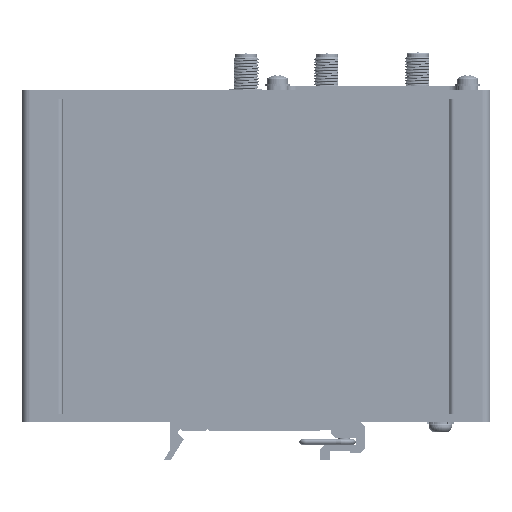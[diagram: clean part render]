
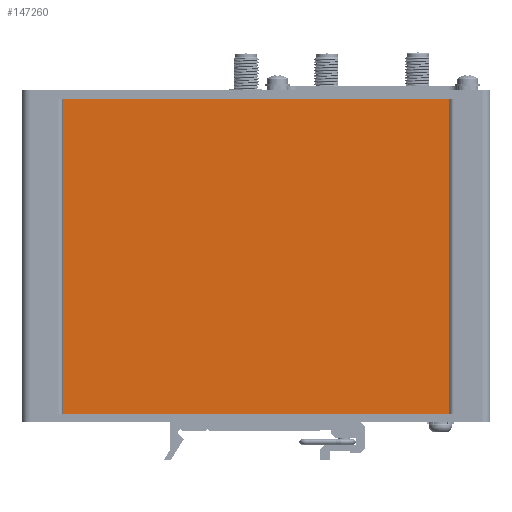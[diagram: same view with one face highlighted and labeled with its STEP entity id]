
A CAD part, front view. The second image highlights one B-rep face of the part: STEP entity #147260.
In plain terms, the highlighted planar face has unit normal (0, -1, 0).
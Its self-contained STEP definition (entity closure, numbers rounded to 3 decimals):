
#13308 = CARTESIAN_POINT ( 'NONE',  ( 46.8, -20., 76.3 ) ) ;
#41243 = AXIS2_PLACEMENT_3D ( 'NONE', #251571, #136269, #314212 ) ;
#48588 = DIRECTION ( 'NONE',  ( 0., 0., -1. ) ) ;
#77703 = VERTEX_POINT ( 'NONE', #128016 ) ;
#79586 = EDGE_CURVE ( 'NONE', #311526, #77703, #316572, .T. ) ;
#81517 = CARTESIAN_POINT ( 'NONE',  ( -46.8, -20., 76.3 ) ) ;
#105061 = ORIENTED_EDGE ( 'NONE', *, *, #79586, .F. ) ;
#122103 = CARTESIAN_POINT ( 'NONE',  ( -46.8, -20., 0. ) ) ;
#124072 = EDGE_LOOP ( 'NONE', ( #262330, #105061, #281225, #355565 ) ) ;
#124084 = LINE ( 'NONE', #122103, #177496 ) ;
#128016 = CARTESIAN_POINT ( 'NONE',  ( 46.8, -20., 0. ) ) ;
#136269 = DIRECTION ( 'NONE',  ( 0., 1., 0. ) ) ;
#142507 = VECTOR ( 'NONE', #290230, 1000. ) ;
#147260 = ADVANCED_FACE ( 'NONE', ( #192906 ), #287904, .F. ) ;
#165850 = LINE ( 'NONE', #200169, #195617 ) ;
#173580 = VERTEX_POINT ( 'NONE', #252387 ) ;
#173749 = CARTESIAN_POINT ( 'NONE',  ( -46.8, -20., 76.3 ) ) ;
#177496 = VECTOR ( 'NONE', #253391, 1000. ) ;
#192906 = FACE_OUTER_BOUND ( 'NONE', #124072, .T. ) ;
#195617 = VECTOR ( 'NONE', #48588, 1000. ) ;
#199849 = VERTEX_POINT ( 'NONE', #81517 ) ;
#200169 = CARTESIAN_POINT ( 'NONE',  ( -46.8, -20., 76.3 ) ) ;
#226160 = CARTESIAN_POINT ( 'NONE',  ( 46.8, -20., 76.3 ) ) ;
#251571 = CARTESIAN_POINT ( 'NONE',  ( -46.8, -20., 76.3 ) ) ;
#252387 = CARTESIAN_POINT ( 'NONE',  ( -46.8, -20., 0. ) ) ;
#253391 = DIRECTION ( 'NONE',  ( 1., 0., 0. ) ) ;
#262330 = ORIENTED_EDGE ( 'NONE', *, *, #347549, .T. ) ;
#264817 = VECTOR ( 'NONE', #297075, 1000. ) ;
#272684 = LINE ( 'NONE', #173749, #264817 ) ;
#275922 = EDGE_CURVE ( 'NONE', #199849, #311526, #272684, .T. ) ;
#281225 = ORIENTED_EDGE ( 'NONE', *, *, #275922, .F. ) ;
#286195 = EDGE_CURVE ( 'NONE', #199849, #173580, #165850, .T. ) ;
#287904 = PLANE ( 'NONE',  #41243 ) ;
#290230 = DIRECTION ( 'NONE',  ( 0., 0., -1. ) ) ;
#297075 = DIRECTION ( 'NONE',  ( 1., 0., 0. ) ) ;
#311526 = VERTEX_POINT ( 'NONE', #226160 ) ;
#314212 = DIRECTION ( 'NONE',  ( 0., 0., 1. ) ) ;
#316572 = LINE ( 'NONE', #13308, #142507 ) ;
#347549 = EDGE_CURVE ( 'NONE', #173580, #77703, #124084, .T. ) ;
#355565 = ORIENTED_EDGE ( 'NONE', *, *, #286195, .T. ) ;
